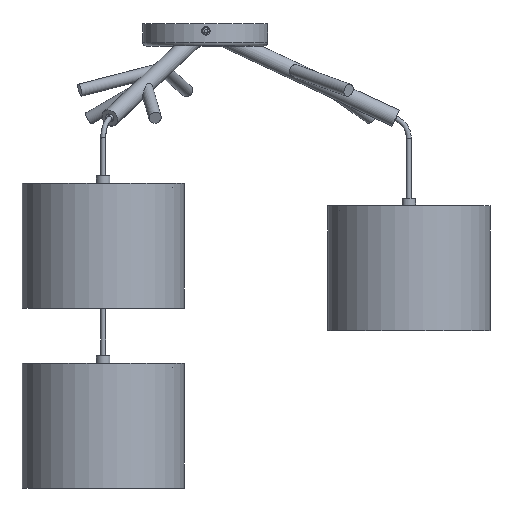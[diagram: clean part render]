
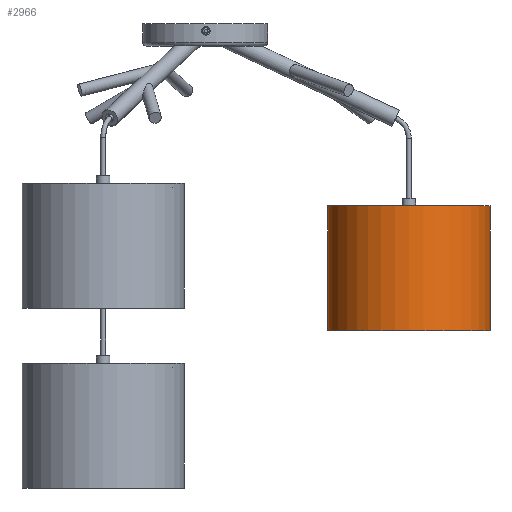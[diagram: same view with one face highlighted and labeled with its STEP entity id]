
A CAD part, top view. The second image highlights one B-rep face of the part: STEP entity #2966.
In plain terms, the highlighted cylindrical face has radius 91 mm (diameter 182 mm), a full revolution.
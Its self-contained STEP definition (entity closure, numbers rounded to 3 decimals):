
#447=FACE_OUTER_BOUND('',#687,.T.);
#687=EDGE_LOOP('',(#2343,#2344,#2345,#2346));
#896=LINE('',#11083,#1006);
#1006=VECTOR('',#3985,91.);
#1124=CIRCLE('',#3315,91.);
#1125=CIRCLE('',#3316,91.);
#1408=VERTEX_POINT('',#11080);
#1409=VERTEX_POINT('',#11082);
#1745=EDGE_CURVE('',#1408,#1408,#1124,.T.);
#1746=EDGE_CURVE('',#1408,#1409,#896,.T.);
#1747=EDGE_CURVE('',#1409,#1409,#1125,.T.);
#2343=ORIENTED_EDGE('',*,*,#1745,.F.);
#2344=ORIENTED_EDGE('',*,*,#1746,.T.);
#2345=ORIENTED_EDGE('',*,*,#1747,.F.);
#2346=ORIENTED_EDGE('',*,*,#1746,.F.);
#2817=CYLINDRICAL_SURFACE('',#3314,91.);
#2966=ADVANCED_FACE('',(#447),#2817,.T.);
#3314=AXIS2_PLACEMENT_3D('',#11079,#3981,#3982);
#3315=AXIS2_PLACEMENT_3D('',#11081,#3983,#3984);
#3316=AXIS2_PLACEMENT_3D('',#11084,#3986,#3987);
#3981=DIRECTION('center_axis',(0.,-1.,0.));
#3982=DIRECTION('ref_axis',(1.,0.,0.));
#3983=DIRECTION('center_axis',(0.,-1.,0.));
#3984=DIRECTION('ref_axis',(1.,0.,0.));
#3985=DIRECTION('',(0.,1.,0.));
#3986=DIRECTION('center_axis',(0.,1.,0.));
#3987=DIRECTION('ref_axis',(1.,0.,0.));
#11079=CARTESIAN_POINT('Origin',(228.2,-139.,0.));
#11080=CARTESIAN_POINT('',(137.2,-279.,0.));
#11081=CARTESIAN_POINT('Origin',(228.2,-279.,0.));
#11082=CARTESIAN_POINT('',(137.2,-139.,0.));
#11083=CARTESIAN_POINT('',(137.2,-139.,0.));
#11084=CARTESIAN_POINT('Origin',(228.2,-139.,0.));
